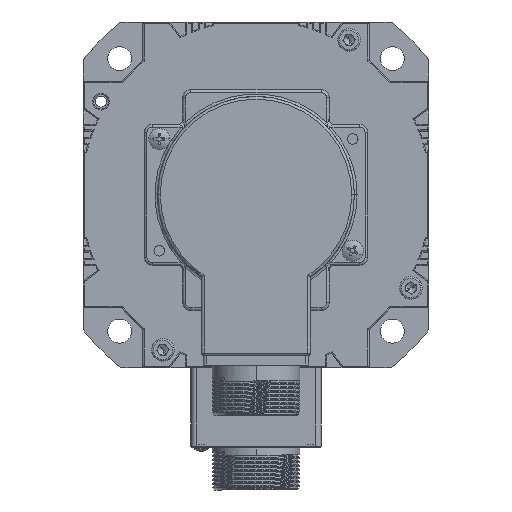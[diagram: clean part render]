
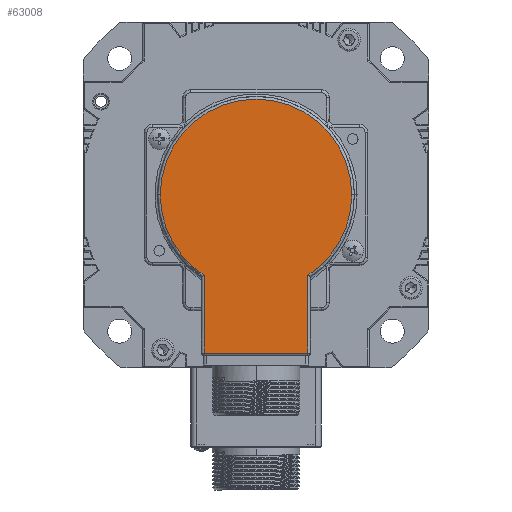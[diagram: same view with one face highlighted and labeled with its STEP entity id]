
A CAD part, front view. The second image highlights one B-rep face of the part: STEP entity #63008.
In plain terms, the highlighted planar face has unit normal (0, -1, 0) as drawn and (0, 0, -1) by its records, which use the part's own axes.
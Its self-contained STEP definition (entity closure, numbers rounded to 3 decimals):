
#646 = ORIENTED_EDGE ( 'NONE', *, *, #62528, .T. ) ;
#3161 = CARTESIAN_POINT ( 'NONE',  ( 20.5, 59.5, -33. ) ) ;
#3447 = DIRECTION ( 'NONE',  ( 0., 1., 0. ) ) ;
#4955 = AXIS2_PLACEMENT_3D ( 'NONE', #53487, #18277, #64921 ) ;
#5232 = CARTESIAN_POINT ( 'NONE',  ( -36., 0., -33. ) ) ;
#7411 = DIRECTION ( 'NONE',  ( -1., 0., 0. ) ) ;
#8874 = DIRECTION ( 'NONE',  ( 1., 0., 0. ) ) ;
#9023 = VERTEX_POINT ( 'NONE', #29530 ) ;
#10747 = VECTOR ( 'NONE', #22694, 1000. ) ;
#13831 = DIRECTION ( 'NONE',  ( -1., 0., 0. ) ) ;
#18256 = EDGE_LOOP ( 'NONE', ( #30022, #19560, #62045, #646, #40517, #60281 ) ) ;
#18277 = DIRECTION ( 'NONE',  ( 0., 0., -1. ) ) ;
#18910 = PLANE ( 'NONE',  #64772 ) ;
#19560 = ORIENTED_EDGE ( 'NONE', *, *, #25805, .T. ) ;
#21052 = EDGE_CURVE ( 'NONE', #9023, #43641, #50024, .T. ) ;
#21201 = CARTESIAN_POINT ( 'NONE',  ( 0., 0., -33. ) ) ;
#22694 = DIRECTION ( 'NONE',  ( 0., -1., 0. ) ) ;
#24057 = LINE ( 'NONE', #3161, #65155 ) ;
#25216 = DIRECTION ( 'NONE',  ( -1., 0., 0. ) ) ;
#25805 = EDGE_CURVE ( 'NONE', #64332, #71450, #24057, .T. ) ;
#27452 = CARTESIAN_POINT ( 'NONE',  ( 19.5, 30.261, -33. ) ) ;
#29530 = CARTESIAN_POINT ( 'NONE',  ( 36., 0., -33. ) ) ;
#30022 = ORIENTED_EDGE ( 'NONE', *, *, #65127, .T. ) ;
#31483 = VERTEX_POINT ( 'NONE', #27452 ) ;
#32459 = DIRECTION ( 'NONE',  ( 0., 0., -1. ) ) ;
#36352 = CARTESIAN_POINT ( 'NONE',  ( 0., 0., -33. ) ) ;
#38138 = VECTOR ( 'NONE', #3447, 1000. ) ;
#40517 = ORIENTED_EDGE ( 'NONE', *, *, #21052, .T. ) ;
#42358 = DIRECTION ( 'NONE',  ( 0., 0., -1. ) ) ;
#42423 = DIRECTION ( 'NONE',  ( 0., 0., -1. ) ) ;
#42981 = LINE ( 'NONE', #56891, #10747 ) ;
#43641 = VERTEX_POINT ( 'NONE', #5232 ) ;
#45744 = AXIS2_PLACEMENT_3D ( 'NONE', #36352, #42358, #13831 ) ;
#46495 = CIRCLE ( 'NONE', #4955, 36. ) ;
#50024 = CIRCLE ( 'NONE', #45744, 36. ) ;
#50698 = AXIS2_PLACEMENT_3D ( 'NONE', #21201, #32459, #25216 ) ;
#53377 = CARTESIAN_POINT ( 'NONE',  ( 19.5, 59.5, -33. ) ) ;
#53487 = CARTESIAN_POINT ( 'NONE',  ( 0., 0., -33. ) ) ;
#53597 = FACE_OUTER_BOUND ( 'NONE', #18256, .T. ) ;
#54640 = CARTESIAN_POINT ( 'NONE',  ( -19.5, 60.5, -33. ) ) ;
#56891 = CARTESIAN_POINT ( 'NONE',  ( 19.5, 30.802, -33. ) ) ;
#58541 = EDGE_CURVE ( 'NONE', #43641, #66568, #68056, .T. ) ;
#60281 = ORIENTED_EDGE ( 'NONE', *, *, #58541, .T. ) ;
#60724 = EDGE_CURVE ( 'NONE', #71450, #31483, #42981, .T. ) ;
#62045 = ORIENTED_EDGE ( 'NONE', *, *, #60724, .T. ) ;
#62528 = EDGE_CURVE ( 'NONE', #31483, #9023, #46495, .T. ) ;
#63008 = ADVANCED_FACE ( 'NONE', ( #53597 ), #18910, .T. ) ;
#64332 = VERTEX_POINT ( 'NONE', #71802 ) ;
#64772 = AXIS2_PLACEMENT_3D ( 'NONE', #70756, #42423, #7411 ) ;
#64921 = DIRECTION ( 'NONE',  ( -1., 0., 0. ) ) ;
#65127 = EDGE_CURVE ( 'NONE', #66568, #64332, #69317, .T. ) ;
#65155 = VECTOR ( 'NONE', #8874, 1000. ) ;
#66568 = VERTEX_POINT ( 'NONE', #71291 ) ;
#68056 = CIRCLE ( 'NONE', #50698, 36. ) ;
#69317 = LINE ( 'NONE', #54640, #38138 ) ;
#70756 = CARTESIAN_POINT ( 'NONE',  ( 0., 0., -33. ) ) ;
#71291 = CARTESIAN_POINT ( 'NONE',  ( -19.5, 30.261, -33. ) ) ;
#71450 = VERTEX_POINT ( 'NONE', #53377 ) ;
#71802 = CARTESIAN_POINT ( 'NONE',  ( -19.5, 59.5, -33. ) ) ;
